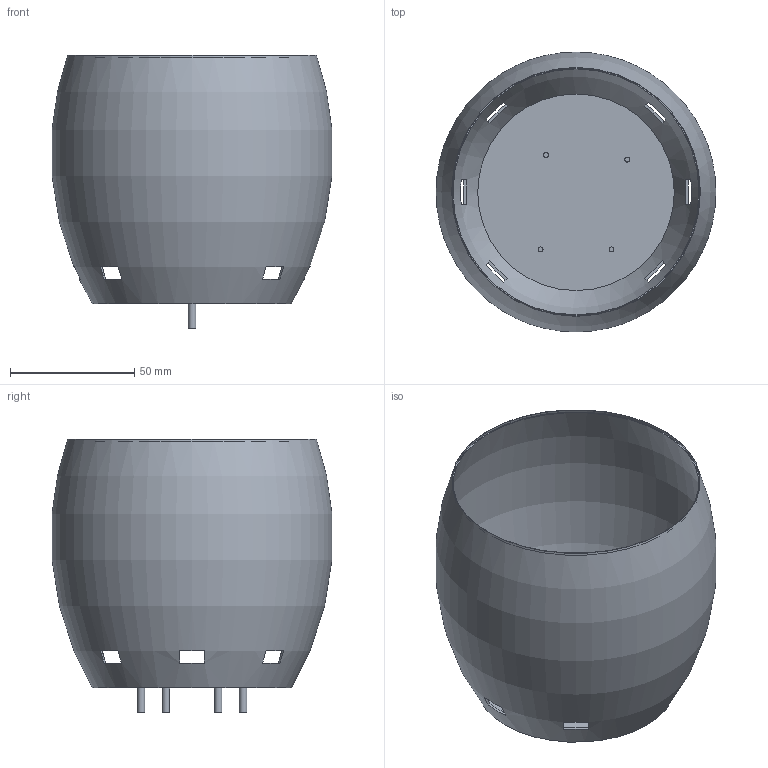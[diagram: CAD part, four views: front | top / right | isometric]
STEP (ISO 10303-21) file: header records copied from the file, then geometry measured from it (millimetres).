
FILE_DESCRIPTION(/* description */ ('STEP AP242 Edition 2','CAx-IF Rec.Pracs.---Representation and Presentation of Product Manufacturing Information (PMI)---4.0---2014-10-13','CAx-IF Rec.Pracs.---3D Tessellated Geometry---0.4---2014-09-14','2;1','CAx-IF Rec.Pracs.---User Defined Attributes---1.5---2016-08-15'),/* implementation_level */ '2;1');
FILE_NAME(/* name */ 'the Pot - Part 2',/* time_stamp */ '2026-06-04T16:18:41Z',/* author */ (''),/* organization */ (''),/* preprocessor_version */ 'ST-DEVELOPER v20',/* originating_system */ 'ONSHAPE BY PTC INC, 1.215',/* authorisation */ ' ');
FILE_SCHEMA (('AP242_MANAGED_MODEL_BASED_3D_ENGINEERING_MIM_LF { 1 0 10303 442 3 1 4 }'));
Length unit declared in the file: metre
Products named in the file (1): Part 2
Bounding box: 112.43 x 112.43 x 110 mm (x, y, z)
Volume: 37273.4 mm3; surface area: 77479.5 mm2
Topology: 1 solids, 1 shells, 47 faces, 115 edges, 78 vertices
Faces by surface type: plane 36, cylinder 8, torus 2, cone 1
Full cylindrical faces by diameter (mm): 2 x4, 3 x4
Entity records: 1340 total; most frequent: CARTESIAN_POINT 284, DIRECTION 212, ORIENTED_EDGE 188, EDGE_CURVE 94, AXIS2_PLACEMENT_3D 94, EDGE_LOOP 80, FACE_BOUND 80, VERTEX_POINT 70
